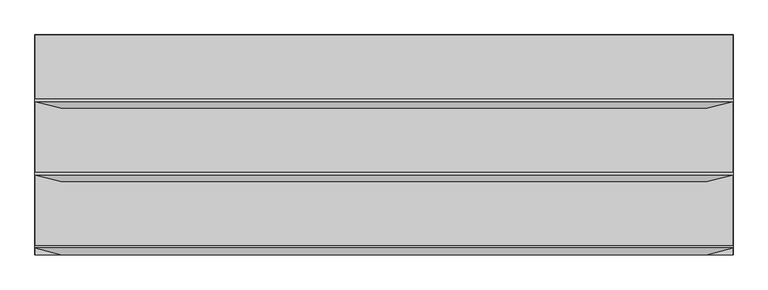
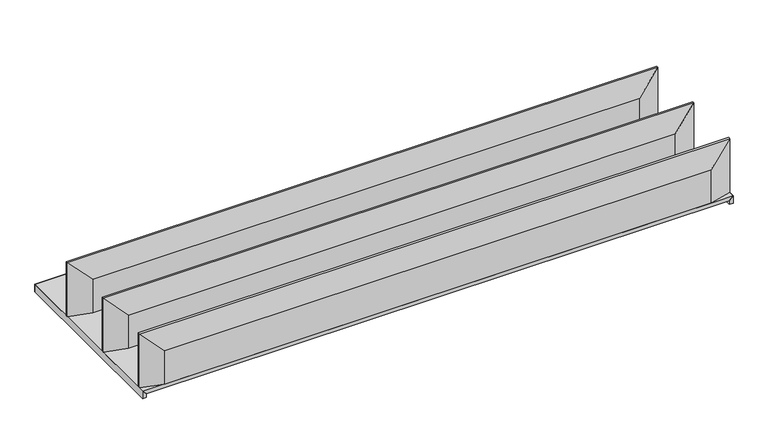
"""IFC4 building model written with IfcOpenShell, lengths in millimetres: proxy geometry, AERO^OFFICE 4_120 WALL HUNG-SHELF."""

from ifc_helpers import new_model, si_unit, origin, place, context, project, spatial, faceted_brep, source, transform, mapped, element, save


def generic_models_1dcdf34e(model_context):
    return source(origin(), model_context, "Body", "Brep", [
        faceted_brep([(106.6433518, 609.6, 172.7566482), (0.0, 638.175, 279.4), (0.0, 638.175, 0.0), (106.6433518, 609.6, 0.0), (2788.9566482, 609.6, 172.7566482), (2895.6, 638.175, 279.4), (2788.9566482, 609.6, 0.0), (2895.6, 638.175, 0.0), (0.0, 647.7, 0.0), (2895.6, 647.7, 0.0), (0.0, 647.7, 279.4), (2895.6, 647.7, 279.4)], [[[0, 1, 2, 3]], [[4, 5, 1, 0]], [[6, 7, 5, 4]], [[3, 2, 8, 9, 7, 6]], [[2, 1, 10, 8]], [[1, 5, 11, 10]], [[9, 8, 10, 11]], [[5, 7, 9, 11]], [[0, 3, 6, 4]]]),
        faceted_brep([(0.0, 914.4, 0.0), (0.0, 914.4, -38.1), (0.0, 0.0, -38.1), (0.0, 0.0, 0.0), (19.05, 895.35, -38.1), (19.05, 0.0, -38.1), (19.05, 895.35, -19.05), (19.05, 0.0, -19.05)], [[[0, 1, 2, 3]], [[1, 4, 5, 2]], [[4, 6, 7, 5]], [[6, 0, 3, 7]], [[3, 2, 5, 7]], [[4, 1, 0, 6]]]),
        faceted_brep([(2876.55, 895.35, -38.1), (2895.6, 914.4, -38.1), (2895.6, 914.4, 0.0), (2876.55, 895.35, -19.05), (19.05, 895.35, -19.05), (19.05, 895.35, -38.1), (0.0, 914.4, 0.0), (0.0, 914.4, -38.1)], [[[0, 1, 2, 3]], [[0, 3, 4, 5]], [[3, 2, 6, 4]], [[4, 6, 7, 5]], [[1, 0, 5, 7]], [[7, 6, 2, 1]]]),
        faceted_brep([(106.6433518, 304.8, 172.7566482), (0.0, 333.375, 279.4), (0.0, 333.375, 0.0), (106.6433518, 304.8, 0.0), (2788.9566482, 304.8, 172.7566482), (2895.6, 333.375, 279.4), (2788.9566482, 304.8, 0.0), (2895.6, 333.375, 0.0), (0.0, 342.9, 279.4), (0.0, 342.9, 0.0), (2895.6, 342.9, 0.0), (2895.6, 342.9, 279.4)], [[[0, 1, 2, 3]], [[4, 5, 1, 0]], [[6, 7, 5, 4]], [[6, 4, 0, 3]], [[2, 1, 8, 9]], [[10, 9, 8, 11]], [[5, 7, 10, 11]], [[1, 5, 11, 8]], [[7, 6, 3, 2, 9, 10]]]),
        faceted_brep([(2895.6, 914.4, -38.1), (2895.6, 914.4, 0.0), (2895.6, 0.0, 0.0), (2895.6, 0.0, -38.1), (2876.55, 895.35, -19.05), (2876.55, 0.0, -19.05), (2876.55, 895.35, -38.1), (2876.55, 0.0, -38.1)], [[[0, 1, 2, 3]], [[1, 4, 5, 2]], [[4, 6, 7, 5]], [[6, 0, 3, 7]], [[3, 2, 5, 7]], [[4, 1, 0, 6]]]),
        faceted_brep([(106.6433518, 0.0, 172.7566482), (0.0, 28.575, 279.4), (0.0, 28.575, 0.0), (106.6433518, 0.0, 0.0), (2788.9566482, 0.0, 172.7566482), (2895.6, 28.575, 279.4), (2788.9566482, 0.0, 0.0), (2895.6, 28.575, 0.0), (0.0, 38.1, 0.0), (2895.6, 38.1, 0.0), (0.0, 38.1, 279.4), (2895.6, 38.1, 279.4)], [[[0, 1, 2, 3]], [[4, 5, 1, 0]], [[6, 7, 5, 4]], [[3, 2, 8, 9, 7, 6]], [[2, 1, 10, 8]], [[1, 5, 11, 10]], [[9, 8, 10, 11]], [[5, 7, 9, 11]], [[0, 3, 6, 4]]]),
        faceted_brep([(2876.55, 895.35, -19.05), (2895.6, 914.4, 0.0), (2895.6, 0.0, 0.0), (2876.55, 0.0, -19.05), (19.05, 895.35, -19.05), (0.0, 914.4, 0.0), (19.05, 0.0, -19.05), (0.0, 0.0, 0.0)], [[[0, 1, 2, 3]], [[1, 0, 4, 5]], [[0, 3, 6, 4]], [[5, 4, 6, 7]], [[3, 2, 7, 6]], [[5, 7, 2, 1]]]),
    ])


if __name__ == "__main__":
    model = new_model("IFC4")
    model_context = context("Model", 3, world=origin())
    ifc_project = project(units=[si_unit("LENGTHUNIT", "METRE", prefix="MILLI")], contexts=[model_context])
    site = spatial("IfcSite", under=ifc_project)
    building = spatial("IfcBuilding", under=site)
    placement = place(None, origin())
    generic_models_shape = generic_models_1dcdf34e(model_context)
    element("IfcBuildingElementProxy", 1, Name="AERO^OFFICE 4_120 WALL HUNG-SHELF", ObjectType="AERO^OFFICE 4_120 WALL HUNG-SHELF", at=placement, inside=building, context=model_context, shape_type="MappedRepresentation", body=[
        mapped(generic_models_shape, transform((0.0, 0.0, 0.0), x_axis=(1.0, 0.0, 0.0), y_axis=(0.0, 1.0, 0.0), z_axis=(0.0, 0.0, 1.0))),
    ])
    save(model, "model.ifc")
